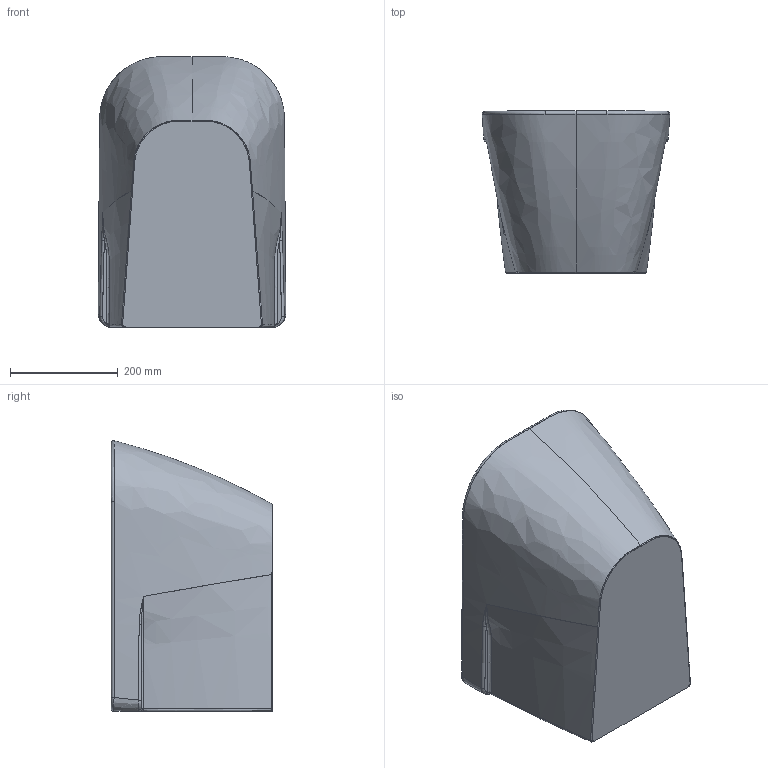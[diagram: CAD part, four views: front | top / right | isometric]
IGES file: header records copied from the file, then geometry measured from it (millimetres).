
Start section: SolidWorks IGES file using NURBS representation for surfaces
Global section: file name: D:\JÚLIO\#1# PRODUTOS\SÉRIES\134_Look suspensa\134440 - bidé susp s furos\biblioteca 3D\134440_igs.IGS; native system: SolidWorks 2018; preprocessor: SolidWorks 2018; author: Julio; date: 180615.095242; units: millimetre
Bounding box: 348.25 x 300 x 502.56 mm (x, y, z)
Surface area: 774439.5 mm2 (no closed solid volume)
Topology: 0 solids, 0 shells, 107 faces, 1675 edges, 1674 vertices
Faces by surface type: bspline 107
